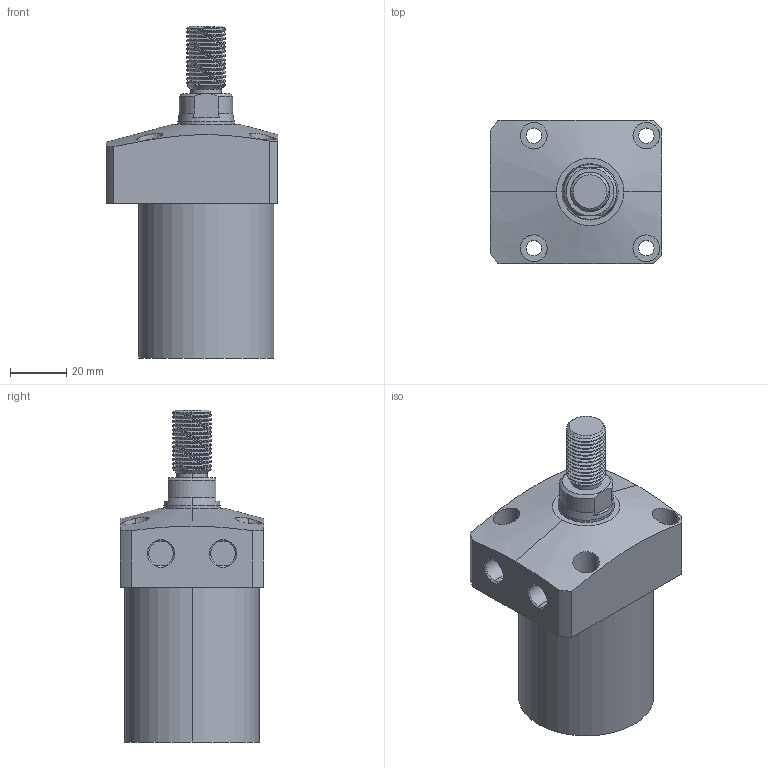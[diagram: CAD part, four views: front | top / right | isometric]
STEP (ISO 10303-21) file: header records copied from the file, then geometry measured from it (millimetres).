
FILE_DESCRIPTION (( 'STEP AP203' ), '1' );
FILE_NAME ('CLL-048CT-045.STEP', '2020-01-10T01:13:37', ( '' ), ( '' ), 'SwSTEP 2.0', 'SolidWorks 2015', '' );
FILE_SCHEMA (( 'CONFIG_CONTROL_DESIGN' ));
Length unit declared in the file: millimetre
Products named in the file (1): CLL-048CT-045
Bounding box: 61 x 51 x 118 mm (x, y, z)
Volume: 178554.4 mm3; surface area: 24262.6 mm2
Topology: 1 solids, 1 shells, 105 faces, 262 edges, 170 vertices
Faces by surface type: cylinder 63, plane 24, cone 16, bspline 2
Entity records: 5137 total; most frequent: CARTESIAN_POINT 2693, ORIENTED_EDGE 524, DIRECTION 464, EDGE_CURVE 262, AXIS2_PLACEMENT_3D 184, VERTEX_POINT 170, EDGE_LOOP 124, FACE_OUTER_BOUND 105
